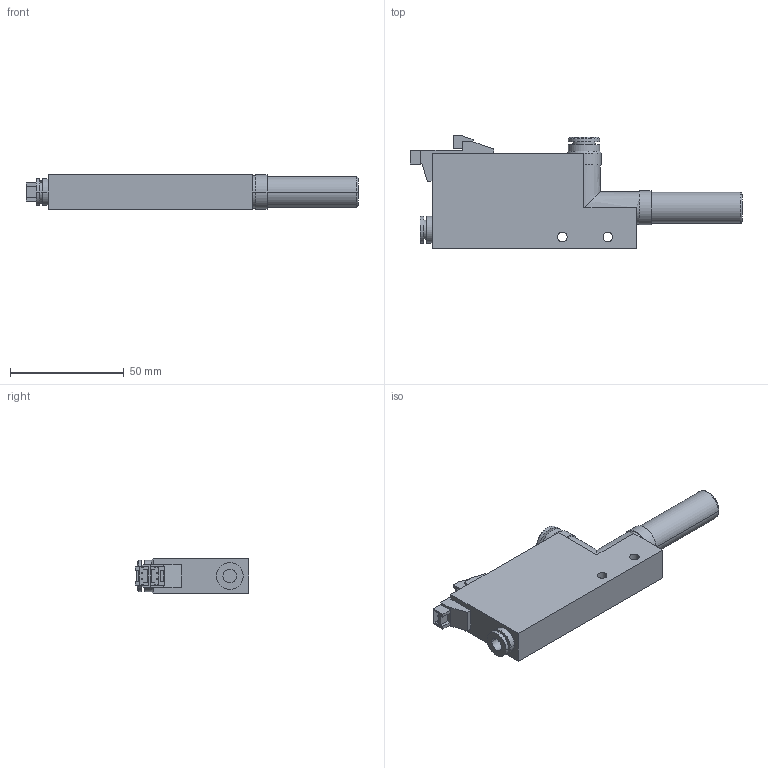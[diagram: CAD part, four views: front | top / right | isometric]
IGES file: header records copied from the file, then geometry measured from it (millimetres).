
Start section: --------------------------------------------------- Robert Bosch GmbH Postfach 300220 70442 Stuttgart Model-Name:      "R412007463" Drawing-Name:    "&dwg_name" Format:          DIN "&format" Alle Rechte bei ROBERT BOSCH GmbH, auch fuer den Fall von Schutzrechtsanmeldungen. Jede Verfuegungs- befugnis, wie Kopier- und Weitergabe, bei uns. THIS DRAWING IS THE EXCLUSIVE PROPERTY OF ROBERT BOSCH GMBH.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
Global section: file name: r412007463.igs; native system: Creo Parametric by PTC Inc.; preprocessor: 2018190; author: HUG2HC; organization: Unknown; date: 20200515.071536; units: millimetre
Bounding box: 146 x 50 x 15 mm (x, y, z)
Surface area: 16079.9 mm2 (no closed solid volume)
Topology: 0 solids, 0 shells, 137 faces, 678 edges, 678 vertices
Faces by surface type: bspline 97, revolution 40
